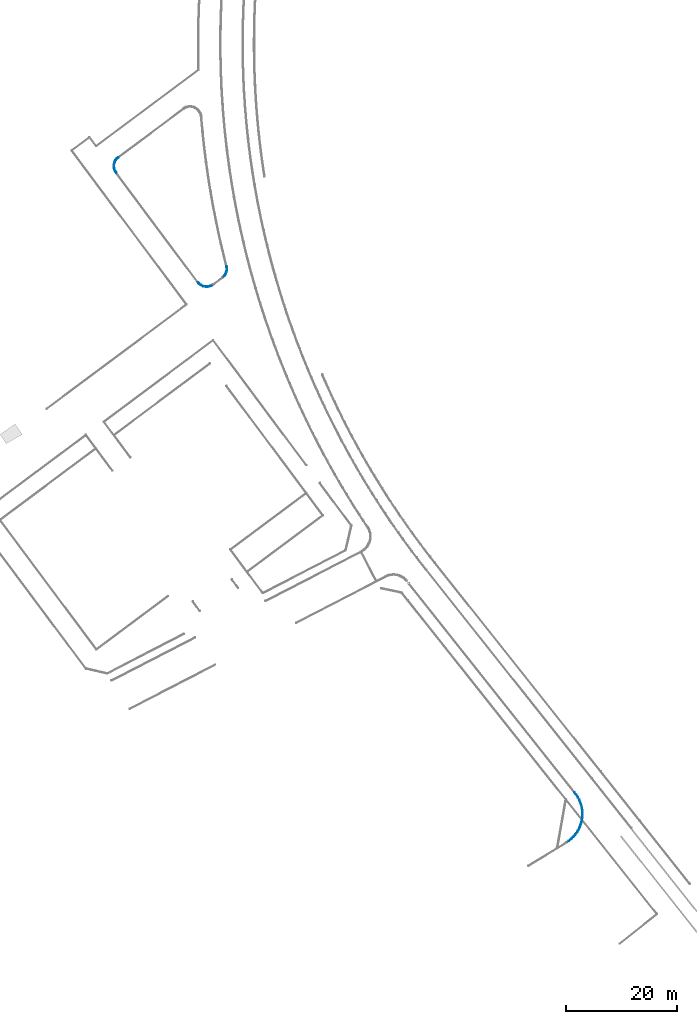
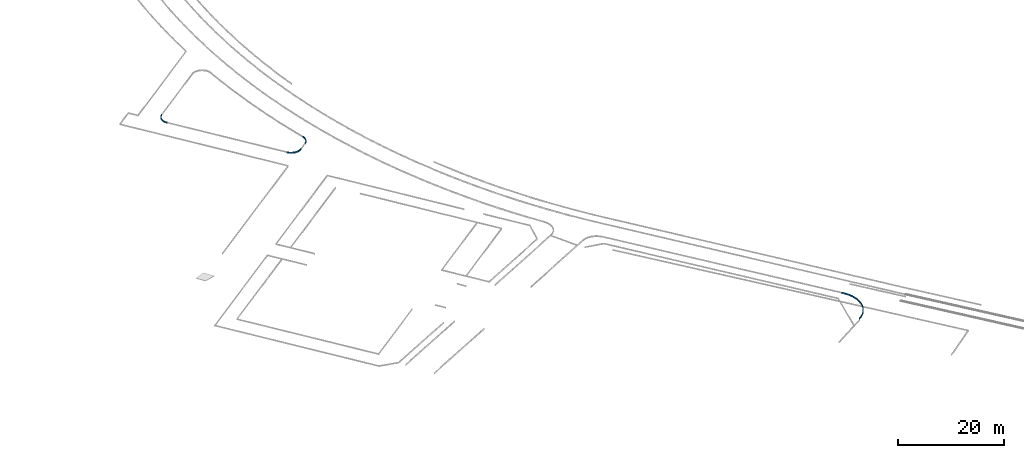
# One storey, part 16 of 24: 4 beams.
"""IFC2X3 building model written with IfcOpenShell, lengths in millimetres."""

from ifc_helpers import new_model, entity, si_unit, converted_unit, derived_unit, direction, frame, origin, place, context, subcontext, project, spatial, faceted_brep, material, type_object, element, save


model = new_model("IFC2X3")

# Units and contexts
model_context = context("Model", 3, precision=0.01, world=origin(), true_north=direction((6.123031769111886e-17, 1.0)))
body_context = subcontext(model_context, "Body", "Model", "MODEL_VIEW")
ifc_project = project(units=[si_unit("LENGTHUNIT", "METRE", prefix="MILLI"), si_unit("AREAUNIT", "SQUARE_METRE"), si_unit("VOLUMEUNIT", "CUBIC_METRE"), converted_unit("PLANEANGLEUNIT", "DEGREE", entity("IfcRatioMeasure", 0.017453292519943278), si_unit("PLANEANGLEUNIT", "RADIAN"), dimensions=[0, 0, 0, 0, 0, 0, 0]), si_unit("MASSUNIT", "GRAM", prefix="KILO"), derived_unit("MASSDENSITYUNIT", [(si_unit("MASSUNIT", "GRAM", prefix="KILO"), 1), (si_unit("LENGTHUNIT", "METRE"), -3)]), derived_unit("MOMENTOFINERTIAUNIT", [(si_unit("LENGTHUNIT", "METRE"), 4)]), si_unit("TIMEUNIT", "SECOND"), si_unit("FREQUENCYUNIT", "HERTZ"), si_unit("THERMODYNAMICTEMPERATUREUNIT", "DEGREE_CELSIUS"), derived_unit("THERMALTRANSMITTANCEUNIT", [(si_unit("MASSUNIT", "GRAM", prefix="KILO"), 1), (si_unit("THERMODYNAMICTEMPERATUREUNIT", "KELVIN"), -1), (si_unit("TIMEUNIT", "SECOND"), -3)]), derived_unit("THERMALCONDUCTANCEUNIT", [(si_unit("MASSUNIT", "GRAM", prefix="KILO"), 1), (si_unit("LENGTHUNIT", "METRE"), 1), (si_unit("THERMODYNAMICTEMPERATUREUNIT", "KELVIN"), -1), (si_unit("TIMEUNIT", "SECOND"), -3)]), derived_unit("VOLUMETRICFLOWRATEUNIT", [(si_unit("LENGTHUNIT", "METRE"), 3), (si_unit("TIMEUNIT", "SECOND"), -1)]), derived_unit("MASSFLOWRATEUNIT", [(si_unit("MASSUNIT", "GRAM", prefix="KILO"), 1), (si_unit("TIMEUNIT", "SECOND"), -1)]), derived_unit("ROTATIONALFREQUENCYUNIT", [(si_unit("TIMEUNIT", "SECOND"), -1)]), si_unit("ELECTRICCURRENTUNIT", "AMPERE"), si_unit("ELECTRICVOLTAGEUNIT", "VOLT"), si_unit("POWERUNIT", "WATT"), converted_unit("FORCEUNIT", "KIP", entity("IfcRatioMeasure", 2.088543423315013e-05), si_unit("FORCEUNIT", "NEWTON"), dimensions=[1, 1, -2, 0, 0, 0, 0]), si_unit("ILLUMINANCEUNIT", "LUX"), si_unit("LUMINOUSFLUXUNIT", "LUMEN"), si_unit("LUMINOUSINTENSITYUNIT", "CANDELA"), derived_unit("USERDEFINED", [(si_unit("MASSUNIT", "GRAM", prefix="KILO"), -1), (si_unit("LENGTHUNIT", "METRE"), -2), (si_unit("TIMEUNIT", "SECOND"), 3), (si_unit("LUMINOUSFLUXUNIT", "LUMEN"), 1)]), derived_unit("USERDEFINED", [(si_unit("MASSUNIT", "GRAM", prefix="KILO"), 1), (si_unit("LENGTHUNIT", "METRE"), 3), (si_unit("TIMEUNIT", "SECOND"), -3), (si_unit("ELECTRICCURRENTUNIT", "AMPERE"), -2)]), derived_unit("USERDEFINED", [(si_unit("LENGTHUNIT", "METRE"), 2), (si_unit("TIMEUNIT", "SECOND"), -2)]), derived_unit("SOUNDPOWERUNIT", [(si_unit("MASSUNIT", "GRAM", prefix="KILO"), 1), (si_unit("LENGTHUNIT", "METRE"), 2), (si_unit("TIMEUNIT", "SECOND"), -3)]), derived_unit("SOUNDPRESSUREUNIT", [(si_unit("MASSUNIT", "GRAM", prefix="KILO"), 1), (si_unit("LENGTHUNIT", "METRE"), -1), (si_unit("TIMEUNIT", "SECOND"), -2)]), derived_unit("LINEARVELOCITYUNIT", [(si_unit("LENGTHUNIT", "METRE"), 1), (si_unit("TIMEUNIT", "SECOND"), -1)]), si_unit("PRESSUREUNIT", "PASCAL"), derived_unit("USERDEFINED", [(si_unit("LENGTHUNIT", "METRE"), -2), (si_unit("MASSUNIT", "GRAM", prefix="KILO"), 1), (si_unit("TIMEUNIT", "SECOND"), -2)]), derived_unit("LINEARFORCEUNIT", [(si_unit("MASSUNIT", "GRAM", prefix="KILO"), 1), (si_unit("LENGTHUNIT", "METRE"), 1), (si_unit("TIMEUNIT", "SECOND"), -2), (si_unit("LENGTHUNIT", "METRE"), -1)]), derived_unit("PLANARFORCEUNIT", [(si_unit("MASSUNIT", "GRAM", prefix="KILO"), 1), (si_unit("LENGTHUNIT", "METRE"), 1), (si_unit("TIMEUNIT", "SECOND"), -2), (si_unit("LENGTHUNIT", "METRE"), -2)]), derived_unit("SPECIFICHEATCAPACITYUNIT", [(si_unit("LENGTHUNIT", "METRE"), 2), (si_unit("TIMEUNIT", "SECOND"), -2), (si_unit("THERMODYNAMICTEMPERATUREUNIT", "KELVIN"), -1)]), derived_unit("VAPORPERMEABILITYUNIT", [(si_unit("TIMEUNIT", "SECOND"), 1), (si_unit("LENGTHUNIT", "METRE"), -1)]), derived_unit("DYNAMICVISCOSITYUNIT", [(si_unit("MASSUNIT", "GRAM", prefix="KILO"), 1), (si_unit("LENGTHUNIT", "METRE"), -1), (si_unit("TIMEUNIT", "SECOND"), -1)]), derived_unit("THERMALEXPANSIONCOEFFICIENTUNIT", [(si_unit("THERMODYNAMICTEMPERATUREUNIT", "KELVIN"), -1)])], contexts=[model_context])

# Site, building, storey
site_placement = place(None, frame((0.0, 0.0, 0.0), z_axis=(0.0, 0.0, 1.0), x_axis=(0.8191520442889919, 0.5735764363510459, 0.0)))
site = spatial("IfcSite", under=ifc_project, at=site_placement, Name="Default", CompositionType="ELEMENT")
building_placement = place(site_placement, origin())
building = spatial("IfcBuilding", under=site, at=building_placement, CompositionType="ELEMENT")
storey_placement = place(building_placement, frame((0.0, 0.0, -1150.0)))
storey = spatial("IfcBuildingStorey", under=building, at=storey_placement, Name="6.EG KH -1.15", CompositionType="ELEMENT", Elevation=-1150.0000000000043)

# Beams
ifc_material = material(Name="Paveta_bordur")
beam_type_1 = type_object("IfcBeamType", Name="Beam-140", PredefinedType="NOTDEFINED")
beam_1_placement = place(storey_placement, frame((-160708.42648757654, 52152.14453180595, 920.0)))
element("IfcBeam", 1, at=beam_1_placement, inside=storey, type_object=beam_type_1, material=ifc_material, Name="Beam-140 238172:Beam-140 238172", ObjectType="Beam-140 238172:Beam-140 238172", context=body_context, shape_type="Brep", body=[
    faceted_brep([(1.5952722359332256, 101.55062584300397, 250.0), (1.5952722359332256, 101.55062584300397, 0.0), (4.5831285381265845, 1.5952722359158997, 0.0), (4.5831285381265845, 1.5952722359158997, 250.0), (1863.0809129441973, 1331.6081216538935, 0.0), (1769.434628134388, 1366.6847996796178, 0.0), (1769.434628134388, 1366.6847996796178, 250.0), (1863.0809129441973, 1331.6081216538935, 250.0), (1467.2576989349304, 834.0655831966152, 0.0), (1558.3369600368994, 957.8583435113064, 0.0), (1639.384257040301, 1088.4394101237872, 0.0), (1709.8961465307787, 1224.99764952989, 0.0), (1800.4891758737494, 1182.6549638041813, 0.0), (1726.3612920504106, 1039.0937377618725, 0.0), (1641.1577234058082, 901.8162061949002, 0.0), (1545.4077309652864, 771.6750991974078, 0.0), (1439.7060872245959, 649.4788173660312, 0.0), (1324.7093815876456, 535.9864102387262, 0.0), (1201.1319418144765, 431.90286128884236, 0.0), (1069.7413968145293, 337.8747087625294, 0.0), (931.3539083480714, 254.4860295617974, 0.0), (786.829101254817, 182.2548111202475, 0.0), (637.0647237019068, 121.6297338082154, 0.0), (482.9910706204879, 72.9873838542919, 0.0), (325.56520497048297, 36.62991409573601, 0.0), (165.76501273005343, 12.783167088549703, 0.0), (154.91462549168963, 112.19276972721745, 0.0), (306.91968640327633, 134.87626078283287, 0.0), (456.66624153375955, 169.46019543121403, 0.0), (603.2241066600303, 215.72974782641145, 0.0), (745.6829048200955, 273.3975042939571, 0.0), (883.157721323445, 342.10524866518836, 0.0), (1014.7946005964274, 421.42618741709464, 0.0), (1139.7758507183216, 510.8676007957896, 0.0), (1257.325122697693, 609.8739034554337, 0.0), (1366.7122329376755, 717.8300956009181, 0.0), (165.76501273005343, 12.783167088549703, 250.0), (325.56520497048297, 36.62991409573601, 250.0), (482.9910706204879, 72.9873838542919, 250.0), (931.3539083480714, 254.4860295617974, 250.0), (786.829101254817, 182.2548111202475, 250.0), (637.0647237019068, 121.6297338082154, 250.0), (1069.7413968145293, 337.8747087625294, 250.0), (1201.1319418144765, 431.90286128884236, 250.0), (1324.7093815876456, 535.9864102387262, 250.0), (1439.7060872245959, 649.4788173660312, 250.0), (1545.4077309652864, 771.6750991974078, 250.0), (1800.4891758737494, 1182.6549638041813, 250.0), (1726.3612920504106, 1039.0937377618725, 250.0), (1641.1577234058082, 901.8162061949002, 250.0), (1366.7122329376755, 717.8300956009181, 250.0), (1257.325122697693, 609.8739034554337, 250.0), (1139.7758507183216, 510.8676007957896, 250.0), (1014.7946005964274, 421.42618741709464, 250.0), (883.157721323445, 342.10524866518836, 250.0), (745.6829048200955, 273.3975042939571, 250.0), (603.2241066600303, 215.72974782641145, 250.0), (456.66624153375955, 169.46019543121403, 250.0), (306.91968640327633, 134.87626078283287, 250.0), (154.91462549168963, 112.19276972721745, 250.0), (1709.8961465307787, 1224.99764952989, 250.0), (1639.384257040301, 1088.4394101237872, 250.0), (1558.3369600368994, 957.8583435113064, 250.0), (1467.2576989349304, 834.0655831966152, 250.0)], [[[0, 1, 2, 3]], [[4, 5, 6, 7]], [[8, 9, 10, 11, 5, 4, 12, 13, 14, 15, 16, 17, 18, 19, 20, 21, 22, 23, 24, 25, 2, 1, 26, 27, 28, 29, 30, 31, 32, 33, 34, 35]], [[36, 3, 2, 25]], [[37, 36, 25, 24]], [[37, 24, 23, 38]], [[21, 20, 39, 40]], [[41, 22, 21, 40]], [[23, 22, 41, 38]], [[39, 20, 19, 42]], [[19, 18, 43, 42]], [[44, 17, 16, 45]], [[43, 18, 17, 44]], [[45, 16, 15, 46]], [[13, 12, 47, 48]], [[49, 14, 13, 48]], [[46, 15, 14, 49]], [[47, 12, 4, 7]], [[50, 51, 52, 53, 54, 55, 56, 57, 58, 59, 0, 3, 36, 37, 38, 41, 40, 39, 42, 43, 44, 45, 46, 49, 48, 47, 7, 6, 60, 61, 62, 63]], [[26, 1, 0, 59]], [[27, 26, 59, 58]], [[28, 27, 58, 57]], [[31, 30, 55, 54]], [[30, 29, 56, 55]], [[29, 28, 57, 56]], [[32, 31, 54, 53]], [[53, 52, 33, 32]], [[35, 34, 51, 50]], [[34, 33, 52, 51]], [[8, 35, 50, 63]], [[61, 60, 11, 10]], [[10, 9, 62, 61]], [[9, 8, 63, 62]], [[5, 11, 60, 6]]]),
])
beam_type_2 = type_object("IfcBeamType", Name="Beam-138", PredefinedType="NOTDEFINED")
beam_2_placement = place(storey_placement, frame((-164836.1345327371, 52091.751977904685, 920.0)))
element("IfcBeam", 2, at=beam_2_placement, inside=storey, type_object=beam_type_2, material=ifc_material, Name="Beam-138:Beam-138", ObjectType="Beam-138:Beam-138", context=body_context, shape_type="Brep", body=[
    faceted_brep([(101.5506256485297, 1992.4167004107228, 250.0), (101.5506256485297, 1992.4167004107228, 0.0), (1.5952722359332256, 1989.4288376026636, 0.0), (1.5952722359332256, 1989.4288376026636, 250.0), (2111.930938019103, 1.5952722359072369, 0.0), (2108.9430882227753, 101.55062603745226, 0.0), (2108.9430882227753, 101.55062603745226, 250.0), (2111.930938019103, 1.5952722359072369, 250.0), (1032.2612510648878, 271.54450003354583, 0.0), (895.8113427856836, 356.93318904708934, 0.0), (766.4815827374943, 452.76438880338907, 0.0), (645.069331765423, 558.447268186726, 0.0), (532.32313664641, 673.3302572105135, 0.0), (428.9381150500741, 796.7050641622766, 0.0), (335.5516699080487, 927.8110424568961, 0.0), (252.7395596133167, 1065.8398802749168, 0.0), (181.01234827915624, 1209.9405840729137, 0.0), (120.81225794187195, 1359.224725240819, 0.0), (72.5104421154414, 1512.7719175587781, 0.0), (36.40469750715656, 1669.6354916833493, 0.0), (12.7176280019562, 1828.8483316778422, 0.0), (112.13042747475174, 1839.6693898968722, 0.0), (134.66203017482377, 1688.2230299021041, 0.0), (169.00651894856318, 1539.0113374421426, 0.0), (214.95214863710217, 1392.954252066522, 0.0), (272.2156492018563, 1250.9522641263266, 0.0), (340.44397217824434, 1113.880862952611, 0.0), (419.216467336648, 982.5851391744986, 0.0), (508.04747613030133, 857.8745744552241, 0.0), (606.389325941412, 740.5180507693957, 0.0), (713.6357066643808, 631.2391099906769, 0.0), (829.1254088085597, 530.7114930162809, 0.0), (952.1464000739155, 439.5549859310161, 0.0), (1081.9402152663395, 358.3315988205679, 0.0), (1217.7066324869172, 287.5421007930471, 0.0), (1358.608606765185, 227.62293257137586, 0.0), (1503.777430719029, 178.94351569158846, 0.0), (1652.3180904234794, 141.80397489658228, 0.0), (1803.314783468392, 116.43328776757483, 0.0), (1955.8365651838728, 102.9878730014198, 0.0), (1950.972798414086, 3.10622417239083, 0.0), (1790.6293868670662, 17.241147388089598, 0.0), (1631.8892736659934, 43.912895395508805, 0.0), (1475.7311442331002, 82.95702802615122, 0.0), (1323.1177652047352, 134.13282525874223, 0.0), (1174.9900486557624, 197.12477133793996, 0.0), (12.7176280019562, 1828.8483316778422, 250.0), (36.40469750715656, 1669.6354916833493, 250.0), (72.5104421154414, 1512.7719175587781, 250.0), (532.32313664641, 673.3302572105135, 250.0), (428.9381150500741, 796.7050641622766, 250.0), (252.7395596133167, 1065.8398802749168, 250.0), (335.5516699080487, 927.8110424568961, 250.0), (181.01234827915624, 1209.9405840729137, 250.0), (645.069331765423, 558.447268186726, 250.0), (120.81225794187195, 1359.224725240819, 250.0), (1032.2612510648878, 271.54450003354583, 250.0), (1174.9900486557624, 197.12477133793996, 250.0), (766.4815827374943, 452.76438880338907, 250.0), (895.8113427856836, 356.93318904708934, 250.0), (1323.1177652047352, 134.13282525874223, 250.0), (1950.972798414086, 3.10622417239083, 250.0), (1790.6293868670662, 17.241147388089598, 250.0), (1475.7311442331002, 82.95702802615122, 250.0), (1631.8892736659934, 43.912895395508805, 250.0), (1217.7066324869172, 287.5421007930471, 250.0), (1081.9402152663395, 358.3315988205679, 250.0), (952.1464000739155, 439.5549859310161, 250.0), (829.1254088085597, 530.7114930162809, 250.0), (713.6357066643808, 631.2391099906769, 250.0), (606.389325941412, 740.5180507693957, 250.0), (508.04747613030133, 857.8745744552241, 250.0), (419.216467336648, 982.5851391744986, 250.0), (340.44397217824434, 1113.880862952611, 250.0), (272.2156492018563, 1250.9522641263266, 250.0), (214.95214863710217, 1392.954252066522, 250.0), (169.00651894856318, 1539.0113374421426, 250.0), (134.66203017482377, 1688.2230299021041, 250.0), (112.13042747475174, 1839.6693898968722, 250.0), (1955.8365651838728, 102.9878730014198, 250.0), (1803.314783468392, 116.43328776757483, 250.0), (1652.3180904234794, 141.80397489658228, 250.0), (1503.777430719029, 178.94351569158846, 250.0), (1358.608606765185, 227.62293257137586, 250.0)], [[[0, 1, 2, 3]], [[4, 5, 6, 7]], [[8, 9, 10, 11, 12, 13, 14, 15, 16, 17, 18, 19, 20, 2, 1, 21, 22, 23, 24, 25, 26, 27, 28, 29, 30, 31, 32, 33, 34, 35, 36, 37, 38, 39, 5, 4, 40, 41, 42, 43, 44, 45]], [[46, 3, 2, 20]], [[20, 19, 47, 46]], [[18, 48, 47, 19]], [[13, 12, 49, 50]], [[51, 15, 14, 52]], [[52, 14, 13, 50]], [[15, 51, 53, 16]], [[49, 12, 11, 54]], [[48, 18, 17, 55]], [[55, 17, 16, 53]], [[56, 8, 45, 57]], [[58, 10, 9, 59]], [[8, 56, 59, 9]], [[57, 45, 44, 60]], [[41, 40, 61, 62]], [[63, 43, 42, 64]], [[64, 42, 41, 62]], [[44, 43, 63, 60]], [[61, 40, 4, 7]], [[54, 11, 10, 58]], [[65, 66, 67, 68, 69, 70, 71, 72, 73, 74, 75, 76, 77, 78, 0, 3, 46, 47, 48, 55, 53, 51, 52, 50, 49, 54, 58, 59, 56, 57, 60, 63, 64, 62, 61, 7, 6, 79, 80, 81, 82, 83]], [[21, 1, 0, 78]], [[77, 22, 21, 78]], [[22, 77, 76, 23]], [[71, 70, 29, 28]], [[27, 26, 73, 72]], [[28, 27, 72, 71]], [[25, 74, 73, 26]], [[30, 29, 70, 69]], [[75, 24, 23, 76]], [[24, 75, 74, 25]], [[34, 33, 66, 65]], [[32, 31, 68, 67]], [[32, 67, 66, 33]], [[35, 34, 65, 83]], [[80, 79, 39, 38]], [[37, 36, 82, 81]], [[38, 37, 81, 80]], [[83, 82, 36, 35]], [[5, 39, 79, 6]], [[68, 31, 30, 69]]]),
])
beam_type_3 = type_object("IfcBeamType", Name="Beam-143", PredefinedType="NOTDEFINED")
beam_3_placement = place(storey_placement, frame((-165568.16230327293, 78568.6462883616, 920.0)))
element("IfcBeam", 3, at=beam_3_placement, inside=storey, type_object=beam_type_3, material=ifc_material, Name="Beam-143 256643:Beam-143 256643", ObjectType="Beam-143 256643:Beam-143 256643", context=body_context, shape_type="Brep", body=[
    faceted_brep([(1992.4167386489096, 2011.976178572, 250.0), (1992.4167386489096, 2011.976178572, 0.0), (1989.428878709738, 2111.9315320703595, 0.0), (1989.428878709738, 2111.9315320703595, 250.0), (1.5952722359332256, 1.5952722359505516, 250.0), (1.5952722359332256, 1.5952722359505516, 0.0), (101.5506251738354, 4.583150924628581, 0.0), (101.5506251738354, 4.583150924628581, 250.0), (271.54430121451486, 1081.265235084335, 0.0), (356.93298431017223, 1217.715185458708, 0.0), (452.76418352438, 1347.0449864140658, 0.0), (558.4470675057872, 1468.4572765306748, 0.0), (673.3300659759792, 1581.2035084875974, 0.0), (796.704886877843, 1684.5885641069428, 0.0), (927.8108832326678, 1777.9750399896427, 0.0), (1065.8397427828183, 1860.7871773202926, 0.0), (1209.9404715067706, 1932.514411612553, 0.0), (1359.2246402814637, 1992.714520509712, 0.0), (1512.7718623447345, 2041.0163502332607, 0.0), (1669.6354677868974, 2077.122103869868, 0.0), (1828.848340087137, 2100.8091773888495, 0.0), (1839.6693970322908, 2001.3963777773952, 0.0), (1688.2230063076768, 1978.8647712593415, 0.0), (1539.0112840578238, 1944.5202738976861, 0.0), (1392.9541703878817, 1898.574630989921, 0.0), (1250.952156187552, 1841.311112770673, 0.0), (1113.8807313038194, 1773.0827679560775, 0.0), (982.5849868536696, 1694.3102470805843, 0.0), (857.8744049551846, 1605.4792090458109, 0.0), (740.5178679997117, 1507.1373268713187, 0.0), (631.2389182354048, 1399.890911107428, 0.0), (530.7112968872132, 1284.4011717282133, 0.0), (439.55479031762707, 1161.3801415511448, 0.0), (358.33140883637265, 1031.586286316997, 0.0), (287.5419217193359, 895.8198284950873, 0.0), (227.62276979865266, 754.9178136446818, 0.0), (178.9433746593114, 609.7489497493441, 0.0), (141.80386103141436, 461.20825134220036, 0.0), (116.4332064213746, 310.21152144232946, 0.0), (102.98782938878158, 157.68970532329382, 0.0), (3.106179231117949, 162.55344480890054, 0.0), (17.241062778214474, 322.8968925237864, 0.0), (43.91277659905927, 481.6370444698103, 0.0), (82.95688066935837, 637.7952145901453, 0.0), (134.13265504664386, 790.4086356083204, 0.0), (197.1245839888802, 938.5363948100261, 0.0), (1828.848340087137, 2100.8091773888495, 250.0), (1669.6354677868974, 2077.122103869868, 250.0), (1512.7718623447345, 2041.0163502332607, 250.0), (673.3300659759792, 1581.2035084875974, 250.0), (796.704886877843, 1684.5885641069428, 250.0), (1065.8397427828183, 1860.7871773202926, 250.0), (927.8108832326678, 1777.9750399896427, 250.0), (1209.9404715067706, 1932.514411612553, 250.0), (558.4470675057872, 1468.4572765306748, 250.0), (1359.2246402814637, 1992.714520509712, 250.0), (271.54430121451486, 1081.265235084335, 250.0), (197.1245839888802, 938.5363948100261, 250.0), (452.76418352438, 1347.0449864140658, 250.0), (356.93298431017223, 1217.715185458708, 250.0), (134.13265504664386, 790.4086356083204, 250.0), (3.106179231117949, 162.55344480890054, 250.0), (17.241062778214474, 322.8968925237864, 250.0), (82.95688066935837, 637.7952145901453, 250.0), (43.91277659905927, 481.6370444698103, 250.0), (287.5419217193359, 895.8198284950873, 250.0), (358.33140883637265, 1031.586286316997, 250.0), (439.55479031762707, 1161.3801415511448, 250.0), (530.7112968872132, 1284.4011717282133, 250.0), (631.2389182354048, 1399.890911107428, 250.0), (740.5178679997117, 1507.1373268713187, 250.0), (857.8744049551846, 1605.4792090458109, 250.0), (982.5849868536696, 1694.3102470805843, 250.0), (1113.8807313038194, 1773.0827679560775, 250.0), (1250.952156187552, 1841.311112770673, 250.0), (1392.9541703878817, 1898.574630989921, 250.0), (1539.0112840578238, 1944.5202738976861, 250.0), (1688.2230063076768, 1978.8647712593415, 250.0), (1839.6693970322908, 2001.3963777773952, 250.0), (102.98782938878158, 157.68970532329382, 250.0), (116.4332064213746, 310.21152144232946, 250.0), (141.80386103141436, 461.20825134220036, 250.0), (178.9433746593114, 609.7489497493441, 250.0), (227.62276979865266, 754.9178136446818, 250.0)], [[[0, 1, 2, 3]], [[4, 5, 6, 7]], [[8, 9, 10, 11, 12, 13, 14, 15, 16, 17, 18, 19, 20, 2, 1, 21, 22, 23, 24, 25, 26, 27, 28, 29, 30, 31, 32, 33, 34, 35, 36, 37, 38, 39, 6, 5, 40, 41, 42, 43, 44, 45]], [[46, 3, 2, 20]], [[20, 19, 47, 46]], [[18, 48, 47, 19]], [[13, 12, 49, 50]], [[51, 15, 14, 52]], [[52, 14, 13, 50]], [[15, 51, 53, 16]], [[49, 12, 11, 54]], [[48, 18, 17, 55]], [[55, 17, 16, 53]], [[56, 8, 45, 57]], [[58, 10, 9, 59]], [[8, 56, 59, 9]], [[57, 45, 44, 60]], [[41, 40, 61, 62]], [[63, 43, 42, 64]], [[64, 42, 41, 62]], [[44, 43, 63, 60]], [[61, 40, 5, 4]], [[54, 11, 10, 58]], [[65, 66, 67, 68, 69, 70, 71, 72, 73, 74, 75, 76, 77, 78, 0, 3, 46, 47, 48, 55, 53, 51, 52, 50, 49, 54, 58, 59, 56, 57, 60, 63, 64, 62, 61, 4, 7, 79, 80, 81, 82, 83]], [[21, 1, 0, 78]], [[77, 22, 21, 78]], [[22, 77, 76, 23]], [[71, 70, 29, 28]], [[27, 26, 73, 72]], [[28, 27, 72, 71]], [[25, 74, 73, 26]], [[30, 29, 70, 69]], [[75, 24, 23, 76]], [[24, 75, 74, 25]], [[34, 33, 66, 65]], [[32, 31, 68, 67]], [[32, 67, 66, 33]], [[35, 34, 65, 83]], [[80, 79, 39, 38]], [[37, 36, 82, 81]], [[38, 37, 81, 80]], [[83, 82, 36, 35]], [[6, 39, 79, 7]], [[68, 31, 30, 69]]]),
])
beam_type_4 = type_object("IfcBeamType", Name="Beam-166", PredefinedType="NOTDEFINED")
beam_4_placement = place(storey_placement, frame((-168255.9513614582, -66412.93234514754, 510.0)))
element("IfcBeam", 4, at=beam_4_placement, inside=storey, type_object=beam_type_4, material=ifc_material, Name="Beam-166:Beam-166", ObjectType="Beam-166:Beam-166", context=body_context, shape_type="Brep", body=[
    faceted_brep([(6308.505025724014, 6619.821216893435, 0.0), (6308.505025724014, 6619.821216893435, 250.0), (6408.056250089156, 6629.2845000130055, 250.0), (6408.056250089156, 6629.2845000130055, 0.0), (1.5952722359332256, 12.536426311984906, 250.0), (7.839532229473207, 112.34128199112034, 250.0), (7.839532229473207, 112.34128199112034, 0.0), (1.5952722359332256, 12.536426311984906, 0.0), (6327.996116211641, 6349.71920936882, 250.0), (6327.996116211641, 6349.71920936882, 0.0), (6187.036900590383, 4735.933484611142, 0.0), (6187.036900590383, 4735.933484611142, 250.0), (6241.053329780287, 5001.295920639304, 250.0), (6241.053329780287, 5001.295920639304, 0.0), (6335.188370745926, 6079.010383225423, 0.0), (6335.188370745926, 6079.010383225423, 250.0), (6282.950688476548, 5268.83957765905, 250.0), (6282.950688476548, 5268.83957765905, 0.0), (6312.64234846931, 5538.011274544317, 0.0), (6312.64234846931, 5538.011274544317, 250.0), (6330.066918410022, 5808.254463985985, 0.0), (6330.066918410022, 5808.254463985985, 250.0), (6121.013086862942, 4473.300940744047, 0.0), (6121.013086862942, 4473.300940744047, 250.0), (5482.057920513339, 2984.7075908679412, 250.0), (5616.412914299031, 3219.832520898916, 250.0), (5616.412914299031, 3219.832520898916, 0.0), (5482.057920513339, 2984.7075908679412, 0.0), (5181.998294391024, 2533.9830857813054, 250.0), (5337.15317744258, 2755.933439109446, 250.0), (5337.15317744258, 2755.933439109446, 0.0), (5181.998294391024, 2533.9830857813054, 0.0), (5016.914074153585, 2319.315441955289, 250.0), (5016.914074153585, 2319.315441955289, 0.0), (6043.118401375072, 4213.941315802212, 250.0), (6043.118401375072, 4213.941315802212, 0.0), (5953.513901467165, 3958.390869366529, 0.0), (5953.513901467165, 3958.390869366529, 250.0), (5739.940362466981, 3460.822077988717, 0.0), (5739.940362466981, 3460.822077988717, 250.0), (5852.384856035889, 3707.1779850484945, 250.0), (5852.384856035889, 3707.1779850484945, 0.0), (4842.241849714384, 2112.3743607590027, 250.0), (4842.241849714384, 2112.3743607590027, 0.0), (4658.342778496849, 1913.5877196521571, 0.0), (4658.342778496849, 1913.5877196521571, 250.0), (3614.375597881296, 1055.7200494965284, 250.0), (3614.375597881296, 1055.7200494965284, 0.0), (3383.7110004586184, 913.8439043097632, 0.0), (3383.7110004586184, 913.8439043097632, 250.0), (3146.8352574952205, 782.6003159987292, 0.0), (3146.8352574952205, 782.6003159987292, 250.0), (2904.2381402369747, 662.2606476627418, 0.0), (2904.2381402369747, 662.2606476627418, 250.0), (4264.40332773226, 1542.1041159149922, 250.0), (4465.597095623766, 1723.3665357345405, 250.0), (4465.597095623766, 1723.3665357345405, 0.0), (4264.40332773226, 1542.1041159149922, 0.0), (3838.352120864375, 1207.935404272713, 250.0), (4055.17746896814, 1370.1752436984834, 250.0), (4055.17746896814, 1370.1752436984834, 0.0), (3838.352120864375, 1207.935404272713, 0.0), (2656.4212496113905, 553.0737171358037, 250.0), (2656.4212496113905, 553.0737171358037, 0.0), (1089.2190800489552, 143.1332024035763, 250.0), (1357.291833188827, 181.49980378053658, 250.0), (1357.291833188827, 181.49980378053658, 0.0), (1089.2190800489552, 143.1332024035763, 0.0), (549.2299221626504, 103.13235141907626, 250.0), (819.679340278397, 116.99270199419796, 250.0), (819.679340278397, 116.99270199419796, 0.0), (549.2299221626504, 103.13235141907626, 0.0), (278.43001486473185, 101.5808087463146, 250.0), (278.43001486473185, 101.5808087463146, 0.0), (2147.187455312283, 369.0375754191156, 250.0), (2403.896979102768, 455.2652825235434, 250.0), (2403.896979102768, 455.2652825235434, 0.0), (2147.187455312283, 369.0375754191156, 0.0), (1623.34332459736, 232.01317821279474, 0.0), (1623.34332459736, 232.01317821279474, 250.0), (1886.8234583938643, 294.56888276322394, 250.0), (1886.8234583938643, 294.56888276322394, 0.0), (3668.689263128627, 971.7556179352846, 250.0), (4116.8927090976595, 1291.4908797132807, 250.0), (4534.203757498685, 1650.6126633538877, 250.0), (4917.172814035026, 2046.1523811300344, 250.0), (5262.634163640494, 2474.8404058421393, 250.0), (5567.73213904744, 2933.1330983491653, 250.0), (5829.944726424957, 3417.242100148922, 250.0), (6047.1044129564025, 3923.165648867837, 250.0), (6217.416104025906, 4446.7216577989, 250.0), (6339.47196190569, 4983.58228604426, 250.0), (6412.263043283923, 5529.309713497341, 250.0), (6435.187639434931, 6079.392824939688, 250.0), (552.0762349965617, 3.1728671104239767, 250.0), (1101.1324373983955, 43.84537879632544, 250.0), (1644.2252477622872, 134.21775252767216, 250.0), (2176.8653292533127, 273.54294835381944, 250.0), (2694.649749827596, 460.6692704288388, 250.0), (3193.2983779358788, 694.0498872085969, 250.0), (6412.263043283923, 5529.309713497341, 0.0), (6339.47196190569, 4983.58228604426, 0.0), (6435.187639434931, 6079.392824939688, 0.0), (6217.416104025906, 4446.7216577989, 0.0), (5262.634163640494, 2474.8404058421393, 0.0), (5567.73213904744, 2933.1330983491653, 0.0), (5829.944726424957, 3417.242100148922, 0.0), (6047.1044129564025, 3923.165648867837, 0.0), (4917.172814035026, 2046.1523811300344, 0.0), (4534.203757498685, 1650.6126633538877, 0.0), (3193.2983779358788, 694.0498872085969, 0.0), (3668.689263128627, 971.7556179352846, 0.0), (4116.8927090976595, 1291.4908797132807, 0.0), (2694.649749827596, 460.6692704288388, 0.0), (552.0762349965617, 3.1728671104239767, 0.0), (1101.1324373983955, 43.84537879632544, 0.0), (1644.2252477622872, 134.21775252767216, 0.0), (2176.8653292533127, 273.54294835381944, 0.0)], [[[0, 1, 2, 3]], [[4, 5, 6, 7]], [[8, 1, 0, 9]], [[10, 11, 12, 13]], [[9, 14, 15, 8]], [[16, 17, 13, 12]], [[18, 17, 16, 19]], [[15, 14, 20, 21]], [[11, 10, 22, 23]], [[19, 21, 20, 18]], [[24, 25, 26, 27]], [[28, 29, 30, 31]], [[30, 29, 24, 27]], [[32, 28, 31, 33]], [[34, 35, 36, 37]], [[38, 39, 40, 41]], [[37, 36, 41, 40]], [[25, 39, 38, 26]], [[34, 23, 22, 35]], [[42, 32, 33, 43]], [[43, 44, 45, 42]], [[46, 47, 48, 49]], [[49, 48, 50, 51]], [[51, 50, 52, 53]], [[54, 55, 56, 57]], [[58, 59, 60, 61]], [[60, 59, 54, 57]], [[58, 61, 47, 46]], [[62, 53, 52, 63]], [[64, 65, 66, 67]], [[68, 69, 70, 71]], [[70, 69, 64, 67]], [[72, 68, 71, 73]], [[74, 75, 76, 77]], [[78, 79, 80, 81]], [[74, 77, 81, 80]], [[65, 79, 78, 66]], [[75, 62, 63, 76]], [[5, 72, 73, 6]], [[44, 56, 55, 45]], [[82, 83, 84, 85, 86, 87, 88, 89, 90, 91, 92, 93, 2, 1, 8, 15, 21, 19, 16, 12, 11, 23, 34, 37, 40, 39, 25, 24, 29, 28, 32, 42, 45, 55, 54, 59, 58, 46, 49, 51, 53, 62, 75, 74, 80, 79, 65, 64, 69, 68, 72, 5, 4, 94, 95, 96, 97, 98, 99]], [[100, 92, 91, 101]], [[2, 93, 102, 3]], [[91, 90, 103, 101]], [[100, 102, 93, 92]], [[104, 105, 87, 86]], [[106, 107, 89, 88]], [[105, 106, 88, 87]], [[90, 89, 107, 103]], [[108, 104, 86, 85]], [[85, 84, 109, 108]], [[110, 111, 82, 99]], [[112, 109, 84, 83]], [[82, 111, 112, 83]], [[113, 110, 99, 98]], [[95, 94, 114, 115]], [[116, 117, 97, 96]], [[115, 116, 96, 95]], [[98, 97, 117, 113]], [[7, 114, 94, 4]], [[110, 113, 117, 116, 115, 114, 7, 6, 73, 71, 70, 67, 66, 78, 81, 77, 76, 63, 52, 50, 48, 47, 61, 60, 57, 56, 44, 43, 33, 31, 30, 27, 26, 38, 41, 36, 35, 22, 10, 13, 17, 18, 20, 14, 9, 0, 3, 102, 100, 101, 103, 107, 106, 105, 104, 108, 109, 112, 111]]]),
])

save(model, "model.ifc")
